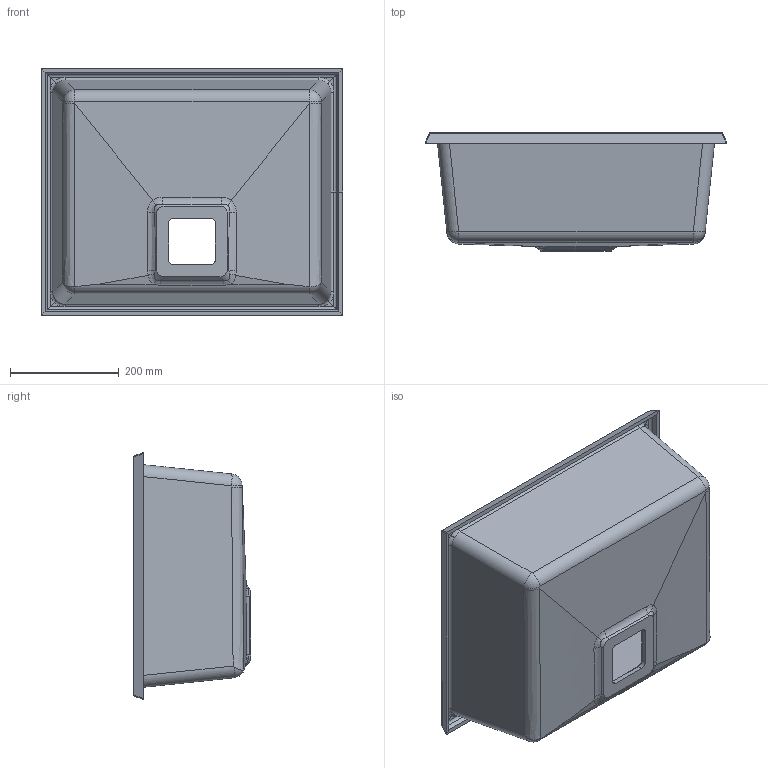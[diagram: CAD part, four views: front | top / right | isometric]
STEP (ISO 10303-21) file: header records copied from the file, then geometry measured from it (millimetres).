
FILE_DESCRIPTION (( 'STEP AP214' ), '1' );
FILE_NAME ('Molde Positivo Completo 072 ZIE 50.STEP', '2022-01-31T14:37:04', ( '' ), ( '' ), 'SwSTEP 2.0', 'SolidWorks 2016', '' );
FILE_SCHEMA (( 'AUTOMOTIVE_DESIGN' ));
Length unit declared in the file: millimetre
Products named in the file (1): Molde Positivo Completo 072 ZIE 50
Bounding box: 556 x 217 x 456 mm (x, y, z)
Volume: 3951314.5 mm3; surface area: 1114229.7 mm2
Topology: 1 solids, 1 shells, 202 faces, 480 edges, 281 vertices
Faces by surface type: bspline 88, cylinder 57, plane 47, sphere 10
Entity records: 8047 total; most frequent: CARTESIAN_POINT 4222, ORIENTED_EDGE 960, DIRECTION 585, EDGE_CURVE 480, VERTEX_POINT 281, AXIS2_PLACEMENT_3D 218, EDGE_LOOP 205, ADVANCED_FACE 202
